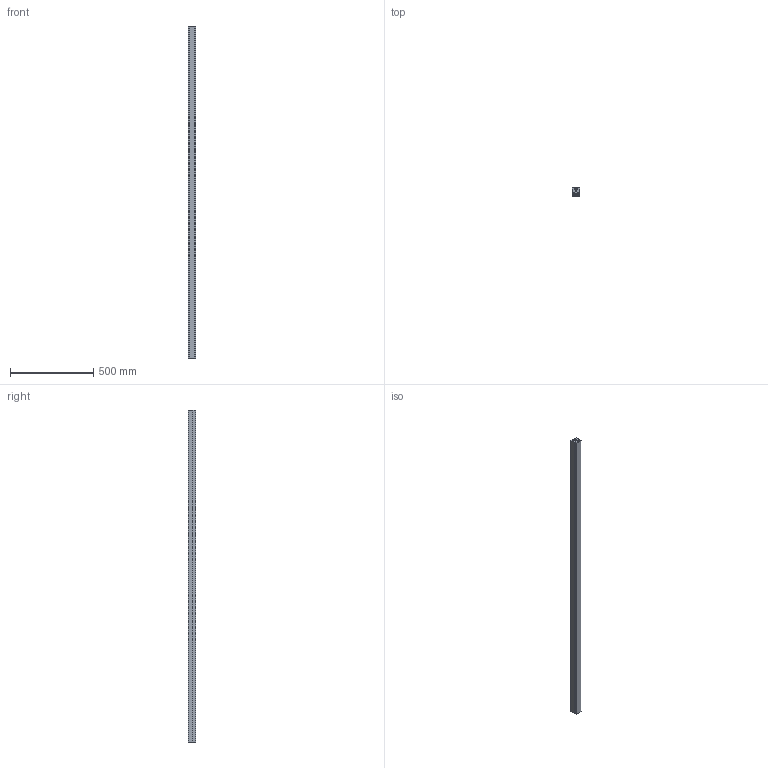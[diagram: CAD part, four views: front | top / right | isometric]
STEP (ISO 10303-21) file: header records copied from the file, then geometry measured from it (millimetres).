
FILE_DESCRIPTION (( 'STEP AP214' ), '1' );
FILE_NAME ('GHEL06.STEP', '2024-01-24T09:13:15', ( '' ), ( '' ), 'SwSTEP 2.0', 'SolidWorks 2022', '' );
FILE_SCHEMA (( 'AUTOMOTIVE_DESIGN' ));
Length unit declared in the file: millimetre
Products named in the file (3): C3818_C3818; GHEL06; GHEL06.SG_GHEL 08
Assembly tree (2 placements, depth 2):
  GHEL06
    GHEL06.SG_GHEL 08
    C3818_C3818
Bounding box: 45 x 45 x 2000 mm (x, y, z)
Volume: 2755783.2 mm3; surface area: 831635.9 mm2
Topology: 2 solids, 2 shells, 48 faces, 132 edges, 88 vertices
Faces by surface type: plane 44, cylinder 4
Entity records: 1812 total; most frequent: CARTESIAN_POINT 273, ORIENTED_EDGE 264, DIRECTION 246, EDGE_CURVE 132, LINE 124, VECTOR 124, VERTEX_POINT 88, AXIS2_PLACEMENT_3D 61
